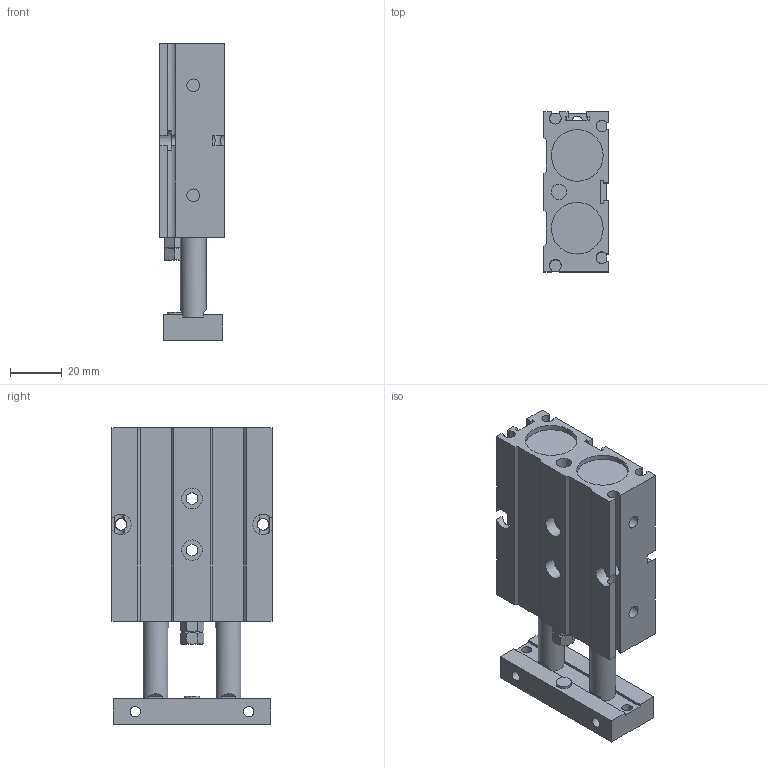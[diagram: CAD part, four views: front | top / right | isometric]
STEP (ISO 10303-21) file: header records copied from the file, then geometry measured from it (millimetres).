
FILE_DESCRIPTION((''),'2;1');
FILE_NAME('I:\3D電子目錄\氣缸\TD\TD20\TD20\TD20x20.stp','2007-08-06T09:46:39',('Administrator'),(''),'Autodesk Inventor 2008','Autodesk Inventor 2008','');
FILE_SCHEMA(('AUTOMOTIVE_DESIGN { 1 0 10303 214 1 1 1 1 }'));
Length unit declared in the file: millimetre
Products named in the file (1): TD20X20
Bounding box: 25 x 62 x 115 mm (x, y, z)
Volume: 118062.1 mm3; surface area: 30199.9 mm2
Topology: 1 solids, 3 shells, 193 faces, 497 edges, 325 vertices
Faces by surface type: plane 134, cylinder 46, cone 7, bspline 4, torus 2
Full cylindrical faces by diameter (mm): 4 x4, 4.5 x4, 5 x2, 6 x2, 7 x2, 8 x6, 9 x2, 10 x2, 20 x4
Entity records: 6028 total; most frequent: CARTESIAN_POINT 1441, DIRECTION 911, ORIENTED_EDGE 908, EDGE_CURVE 454, VERTEX_POINT 319, VECTOR 307, LINE 307, AXIS2_PLACEMENT_3D 302
